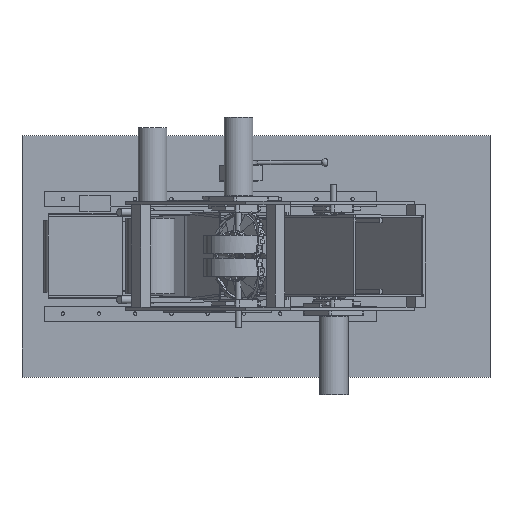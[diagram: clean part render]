
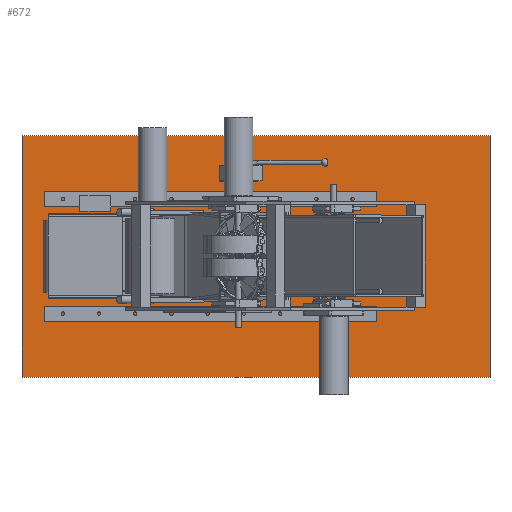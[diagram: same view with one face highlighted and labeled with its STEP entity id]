
A CAD part, top view. The second image highlights one B-rep face of the part: STEP entity #672.
In plain terms, the highlighted planar face has unit normal (0, 0, 1).
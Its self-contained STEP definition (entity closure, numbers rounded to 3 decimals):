
#358 = VERTEX_POINT('',#359);
#359 = CARTESIAN_POINT('',(-140.,-160.,0.));
#366 = PLANE('',#367);
#367 = AXIS2_PLACEMENT_3D('',#368,#369,#370);
#368 = CARTESIAN_POINT('',(-140.,-160.,-4.));
#369 = DIRECTION('',(1.,0.,0.));
#370 = DIRECTION('',(0.,0.,1.));
#378 = PLANE('',#379);
#379 = AXIS2_PLACEMENT_3D('',#380,#381,#382);
#380 = CARTESIAN_POINT('',(-140.,-160.,-4.));
#381 = DIRECTION('',(0.,1.,0.));
#382 = DIRECTION('',(0.,0.,1.));
#419 = VERTEX_POINT('',#420);
#420 = CARTESIAN_POINT('',(-140.,160.,0.));
#434 = PLANE('',#435);
#435 = AXIS2_PLACEMENT_3D('',#436,#437,#438);
#436 = CARTESIAN_POINT('',(-140.,160.,-4.));
#437 = DIRECTION('',(0.,1.,0.));
#438 = DIRECTION('',(0.,0.,1.));
#446 = EDGE_CURVE('',#358,#419,#447,.T.);
#447 = SURFACE_CURVE('',#448,(#452,#459),.PCURVE_S1.);
#448 = LINE('',#449,#450);
#449 = CARTESIAN_POINT('',(-140.,-160.,0.));
#450 = VECTOR('',#451,1.);
#451 = DIRECTION('',(0.,1.,0.));
#452 = PCURVE('',#366,#453);
#453 = DEFINITIONAL_REPRESENTATION('',(#454),#458);
#454 = LINE('',#455,#456);
#455 = CARTESIAN_POINT('',(4.,0.));
#456 = VECTOR('',#457,1.);
#457 = DIRECTION('',(0.,-1.));
#458 = ( GEOMETRIC_REPRESENTATION_CONTEXT(2) 
PARAMETRIC_REPRESENTATION_CONTEXT() REPRESENTATION_CONTEXT('2D SPACE',''
  ) );
#459 = PCURVE('',#460,#465);
#460 = PLANE('',#461);
#461 = AXIS2_PLACEMENT_3D('',#462,#463,#464);
#462 = CARTESIAN_POINT('',(-140.,-160.,0.));
#463 = DIRECTION('',(0.,0.,1.));
#464 = DIRECTION('',(1.,0.,0.));
#465 = DEFINITIONAL_REPRESENTATION('',(#466),#470);
#466 = LINE('',#467,#468);
#467 = CARTESIAN_POINT('',(0.,0.));
#468 = VECTOR('',#469,1.);
#469 = DIRECTION('',(0.,1.));
#470 = ( GEOMETRIC_REPRESENTATION_CONTEXT(2) 
PARAMETRIC_REPRESENTATION_CONTEXT() REPRESENTATION_CONTEXT('2D SPACE',''
  ) );
#478 = VERTEX_POINT('',#479);
#479 = CARTESIAN_POINT('',(480.,-160.,0.));
#486 = PLANE('',#487);
#487 = AXIS2_PLACEMENT_3D('',#488,#489,#490);
#488 = CARTESIAN_POINT('',(480.,-160.,-4.));
#489 = DIRECTION('',(1.,0.,0.));
#490 = DIRECTION('',(0.,0.,1.));
#529 = VERTEX_POINT('',#530);
#530 = CARTESIAN_POINT('',(480.,160.,0.));
#551 = EDGE_CURVE('',#478,#529,#552,.T.);
#552 = SURFACE_CURVE('',#553,(#557,#564),.PCURVE_S1.);
#553 = LINE('',#554,#555);
#554 = CARTESIAN_POINT('',(480.,-160.,0.));
#555 = VECTOR('',#556,1.);
#556 = DIRECTION('',(0.,1.,0.));
#557 = PCURVE('',#486,#558);
#558 = DEFINITIONAL_REPRESENTATION('',(#559),#563);
#559 = LINE('',#560,#561);
#560 = CARTESIAN_POINT('',(4.,0.));
#561 = VECTOR('',#562,1.);
#562 = DIRECTION('',(0.,-1.));
#563 = ( GEOMETRIC_REPRESENTATION_CONTEXT(2) 
PARAMETRIC_REPRESENTATION_CONTEXT() REPRESENTATION_CONTEXT('2D SPACE',''
  ) );
#564 = PCURVE('',#460,#565);
#565 = DEFINITIONAL_REPRESENTATION('',(#566),#570);
#566 = LINE('',#567,#568);
#567 = CARTESIAN_POINT('',(620.,0.));
#568 = VECTOR('',#569,1.);
#569 = DIRECTION('',(0.,1.));
#570 = ( GEOMETRIC_REPRESENTATION_CONTEXT(2) 
PARAMETRIC_REPRESENTATION_CONTEXT() REPRESENTATION_CONTEXT('2D SPACE',''
  ) );
#597 = EDGE_CURVE('',#358,#478,#598,.T.);
#598 = SURFACE_CURVE('',#599,(#603,#610),.PCURVE_S1.);
#599 = LINE('',#600,#601);
#600 = CARTESIAN_POINT('',(-140.,-160.,0.));
#601 = VECTOR('',#602,1.);
#602 = DIRECTION('',(1.,0.,0.));
#603 = PCURVE('',#378,#604);
#604 = DEFINITIONAL_REPRESENTATION('',(#605),#609);
#605 = LINE('',#606,#607);
#606 = CARTESIAN_POINT('',(4.,0.));
#607 = VECTOR('',#608,1.);
#608 = DIRECTION('',(0.,1.));
#609 = ( GEOMETRIC_REPRESENTATION_CONTEXT(2) 
PARAMETRIC_REPRESENTATION_CONTEXT() REPRESENTATION_CONTEXT('2D SPACE',''
  ) );
#610 = PCURVE('',#460,#611);
#611 = DEFINITIONAL_REPRESENTATION('',(#612),#616);
#612 = LINE('',#613,#614);
#613 = CARTESIAN_POINT('',(0.,0.));
#614 = VECTOR('',#615,1.);
#615 = DIRECTION('',(1.,0.));
#616 = ( GEOMETRIC_REPRESENTATION_CONTEXT(2) 
PARAMETRIC_REPRESENTATION_CONTEXT() REPRESENTATION_CONTEXT('2D SPACE',''
  ) );
#644 = EDGE_CURVE('',#419,#529,#645,.T.);
#645 = SURFACE_CURVE('',#646,(#650,#657),.PCURVE_S1.);
#646 = LINE('',#647,#648);
#647 = CARTESIAN_POINT('',(-140.,160.,0.));
#648 = VECTOR('',#649,1.);
#649 = DIRECTION('',(1.,0.,0.));
#650 = PCURVE('',#434,#651);
#651 = DEFINITIONAL_REPRESENTATION('',(#652),#656);
#652 = LINE('',#653,#654);
#653 = CARTESIAN_POINT('',(4.,0.));
#654 = VECTOR('',#655,1.);
#655 = DIRECTION('',(0.,1.));
#656 = ( GEOMETRIC_REPRESENTATION_CONTEXT(2) 
PARAMETRIC_REPRESENTATION_CONTEXT() REPRESENTATION_CONTEXT('2D SPACE',''
  ) );
#657 = PCURVE('',#460,#658);
#658 = DEFINITIONAL_REPRESENTATION('',(#659),#663);
#659 = LINE('',#660,#661);
#660 = CARTESIAN_POINT('',(0.,320.));
#661 = VECTOR('',#662,1.);
#662 = DIRECTION('',(1.,0.));
#663 = ( GEOMETRIC_REPRESENTATION_CONTEXT(2) 
PARAMETRIC_REPRESENTATION_CONTEXT() REPRESENTATION_CONTEXT('2D SPACE',''
  ) );
#672 = ADVANCED_FACE('',(#673),#460,.T.);
#673 = FACE_BOUND('',#674,.T.);
#674 = EDGE_LOOP('',(#675,#676,#677,#678));
#675 = ORIENTED_EDGE('',*,*,#446,.F.);
#676 = ORIENTED_EDGE('',*,*,#597,.T.);
#677 = ORIENTED_EDGE('',*,*,#551,.T.);
#678 = ORIENTED_EDGE('',*,*,#644,.F.);
